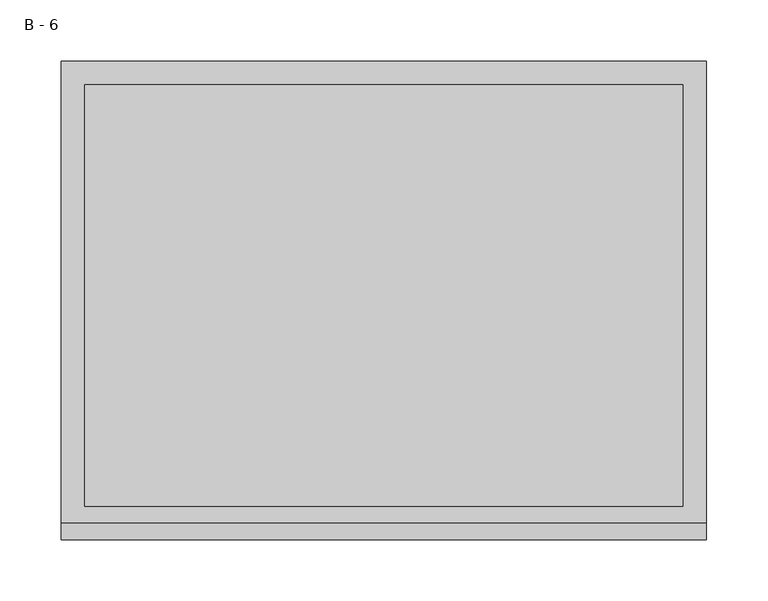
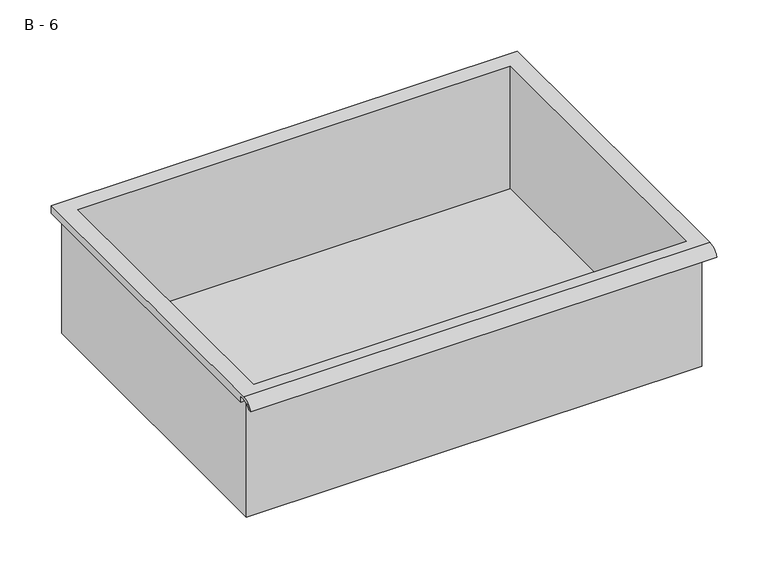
"""IFC4 building model written with IfcOpenShell, lengths in millimetres: furniture geometry, HermanMiller_CoStruc_CO207_Drawer : B - 6."""

from ifc_helpers import new_model, si_unit, frame, origin, place, context, project, spatial, polyline, circle_curve, source, transform, mapped, element, save
from ifc_brep_helpers import plane_surface, cylinder_surface, revolved_surface, advanced_brep


def b_6_fe23bc84(model_context):
    return source(origin(), model_context, "Body", "AdvancedBrep", [
        advanced_brep(
        [(-257.1076517, -176.2125, 930.275), (257.2423483, -176.2125, 930.275), (257.2423483, -176.2125, 1069.975), (263.5923483, -176.2125, 1069.975), (263.5923483, -176.2125, 1076.2821341), (-263.4576517, -176.2125, 1076.2821341), (-263.4576517, -176.2125, 1069.975), (-257.1076517, -176.2125, 1069.975), (257.2423483, 185.7375, 930.275), (-257.1076517, 185.7375, 930.275), (-257.1076517, 185.7375, 1069.975), (257.2423483, 185.7375, 1069.975), (263.5923483, -181.6070544, 1079.5), (263.5923483, 195.2625, 1079.5), (-263.4576517, 195.2625, 1079.5), (-263.4576517, -181.6070544, 1079.5), (244.5423483, -168.275, 1079.5), (-244.4076517, -168.275, 1079.5), (-244.4076517, 176.2125, 1079.5), (244.5423483, 176.2125, 1079.5), (263.5923483, -195.2625, 1069.975), (263.5923483, -191.8280601, 1069.975), (263.5923483, -180.4714815, 1076.2821341), (263.5923483, 195.2625, 1069.975), (-263.4576517, 195.2625, 1069.975), (-263.4576517, -180.4714815, 1076.2821341), (-263.4576517, -191.8280601, 1069.975), (-263.4576517, -195.2625, 1069.975), (-244.4076517, -168.275, 933.3011719), (244.5423483, -168.275, 933.3011719), (244.5423483, 176.2125, 933.3011719), (-244.4076517, 176.2125, 933.3011719)],
        [
            (0, 1),
            (1, 2),
            (2, 3),
            (3, 4),
            (4, 5),
            (5, 6),
            (6, 7),
            (7, 0),
            (8, 9),
            (9, 10),
            (10, 11),
            (11, 8),
            (0, 9),
            (8, 1),
            (11, 2),
            (12, 13),
            (13, 14),
            (14, 15),
            (15, 12),
            (16, 17),
            (17, 18),
            (18, 19),
            (19, 16),
            (7, 10),
            (12, 20, circle_curve(frame((263.5923483, -181.6070544, 1064.9489859), z_axis=(1.0, 0.0, 0.0), x_axis=(0.0, 1.0, 0.0)), 14.5510141)),
            (20, 21),
            (21, 22, circle_curve(frame((263.5923483, -181.6070544, 1064.9489859), z_axis=(-1.0, 0.0, 0.0), x_axis=(0.0, 1.0, 0.0)), 11.3898979)),
            (22, 4),
            (3, 23),
            (23, 13),
            (14, 24),
            (24, 6),
            (5, 25),
            (25, 26, circle_curve(frame((-263.4576517, -181.6070544, 1064.9489859), z_axis=(1.0, 0.0, 0.0), x_axis=(0.0, 1.0, 0.0)), 11.3898979)),
            (26, 27),
            (27, 15, circle_curve(frame((-263.4576517, -181.6070544, 1064.9489859), z_axis=(-1.0, 0.0, 0.0), x_axis=(0.0, 1.0, 0.0)), 14.5510141)),
            (27, 20),
            (26, 21),
            (25, 22),
            (24, 23),
            (28, 29),
            (29, 30),
            (30, 31),
            (31, 28),
            (28, 17),
            (16, 29),
            (19, 30),
            (18, 31),
        ],
        [
            plane_surface(frame((257.2423483, -176.2125, 930.275), z_axis=(0.0, -1.0, 0.0), x_axis=(1.0, 0.0, 0.0))),
            plane_surface(frame((257.2423483, 185.7375, 930.275), z_axis=(0.0, 1.0, 0.0), x_axis=(-1.0, 0.0, 0.0))),
            plane_surface(frame((-257.1076517, -176.2125, 930.275), z_axis=(0.0, 0.0, -1.0), x_axis=(0.0, 1.0, 0.0))),
            plane_surface(frame((257.2423483, -176.2125, 930.275), z_axis=(1.0, 0.0, 0.0), x_axis=(0.0, 1.0, 0.0))),
            plane_surface(frame((257.2423483, -176.2125, 1079.5), z_axis=(0.0, 0.0, 1.0), x_axis=(0.0, 1.0, 0.0))),
            plane_surface(frame((-257.1076517, -176.2125, 1079.5), z_axis=(-1.0, 0.0, 0.0), x_axis=(0.0, 1.0, 0.0))),
            plane_surface(frame((263.5923483, 195.2625, 1079.5), z_axis=(1.0, 0.0, 0.0), x_axis=(0.0, -1.0, 0.0))),
            plane_surface(frame((-263.4576517, 195.2625, 1079.5), z_axis=(-1.0, 0.0, 0.0), x_axis=(0.0, 1.0, 0.0))),
            cylinder_surface(frame((-263.4576517, -181.6070544, 1064.9489859), z_axis=(1.0, 0.0, 0.0), x_axis=(0.0, 1.0, 0.0)), 14.5510141),
            plane_surface(frame((263.5923483, -195.2625, 1069.975), z_axis=(0.0, -7.370057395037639e-12, -1.0), x_axis=(-1.0, 0.0, 0.0))),
            revolved_surface(polyline([(-263.4576517, -170.21715650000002, 1064.9489859), (263.59234829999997, -170.21715650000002, 1064.9489859)]), (-263.4576517, -181.6070544, 1064.9489859), (-1.0, 0.0, 0.0)),
            plane_surface(frame((263.5923483, -180.4714815, 1076.2821341), z_axis=(0.0, -1.8179228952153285e-11, -1.0), x_axis=(-1.0, 0.0, 0.0))),
            plane_surface(frame((263.5923483, -176.2125, 1069.975), z_axis=(0.0, 0.0, -1.0), x_axis=(-1.0, 0.0, 0.0))),
            plane_surface(frame((263.5923483, 195.2625, 1069.975), z_axis=(0.0, 1.0, 0.0), x_axis=(-1.0, 0.0, 0.0))),
            plane_surface(frame((244.5423483, -168.275, 933.3011719), z_axis=(0.0, 0.0, 1.0), x_axis=(-1.0, 0.0, 0.0))),
            plane_surface(frame((-244.4076517, -168.275, 1079.5), z_axis=(0.0, 1.0, 0.0), x_axis=(0.0, 0.0, -1.0))),
            plane_surface(frame((244.5423483, -168.275, 1079.5), z_axis=(-1.0, 0.0, 0.0), x_axis=(0.0, 0.0, -1.0))),
            plane_surface(frame((244.5423483, 176.2125, 1079.5), z_axis=(0.0, -1.0, 0.0), x_axis=(0.0, 0.0, -1.0))),
            plane_surface(frame((-244.4076517, 176.2125, 1079.5), z_axis=(1.0, 0.0, 0.0), x_axis=(0.0, 0.0, -1.0))),
        ],
        [
            (0, [[1, 2, 3, 4, 5, 6, 7, 8]]),
            (1, [[9, 10, 11, 12]]),
            (2, [[-1, 13, -9, 14]]),
            (3, [[-14, -12, 15, -2]]),
            (4, [[16, 17, 18, 19], [20, 21, 22, 23]]),
            (5, [[-13, -8, 24, -10]]),
            (6, [[-16, 25, 26, 27, 28, -4, 29, 30]]),
            (7, [[31, 32, -6, 33, 34, 35, 36, -18]]),
            (8, [[-25, -19, -36, 37]]),
            (9, [[-26, -37, -35, 38]]),
            (10, [[-27, -38, -34, 39]]),
            (11, [[-28, -39, -33, -5]]),
            (12, [[-29, -3, -15, -11, -24, -7, -32, 40]]),
            (13, [[-30, -40, -31, -17]]),
            (14, [[41, 42, 43, 44]]),
            (15, [[-41, 45, -20, 46]]),
            (16, [[-42, -46, -23, 47]]),
            (17, [[-43, -47, -22, 48]]),
            (18, [[-44, -48, -21, -45]]),
        ],
    ),
    ])


if __name__ == "__main__":
    model = new_model("IFC4")
    model_context = context("Model", 3, world=origin())
    ifc_project = project(units=[si_unit("LENGTHUNIT", "METRE", prefix="MILLI")], contexts=[model_context])
    site = spatial("IfcSite", under=ifc_project)
    building = spatial("IfcBuilding", under=site)
    placement = place(None, origin())
    b_6_shape = b_6_fe23bc84(model_context)
    element("IfcFurniture", 1, ObjectType="HermanMiller_CoStruc_CO207_Drawer : B - 6", at=placement, inside=building, context=model_context, shape_type="MappedRepresentation", body=[
        mapped(b_6_shape, transform((0.0, 0.0, 0.0), x_axis=(1.0, 0.0, 0.0), y_axis=(0.0, 1.0, 0.0), z_axis=(0.0, 0.0, 1.0))),
    ])
    save(model, "model.ifc")
